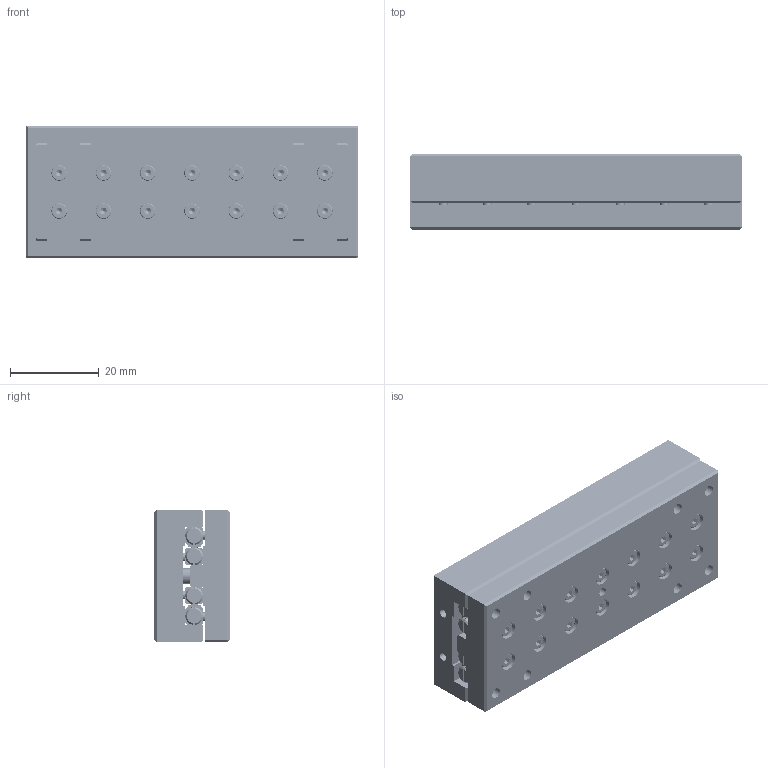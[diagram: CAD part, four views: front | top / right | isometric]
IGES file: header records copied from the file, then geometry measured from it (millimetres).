
Start section: SolidWorks IGES file using analytic representation for surfaces
Global section: file name: C:\Documents and Settings\IanO.IANOHOME\My Documents\Wix and Auto CAD Work\CAD Models\Parametric Models\Auto Models\L1020\L1020_IGES\L1020.030-075.igs; native system: SolidWorks 2009; preprocessor: SolidWorks 2009; author: IanO; date: 110922.162033; units: millimetre
Bounding box: 75 x 17 x 30 mm (x, y, z)
Surface area: 25263.9 mm2 (no closed solid volume)
Topology: 0 solids, 0 shells, 1888 faces, 23252 edges, 23182 vertices
Faces by surface type: bspline 1162, revolution 726
